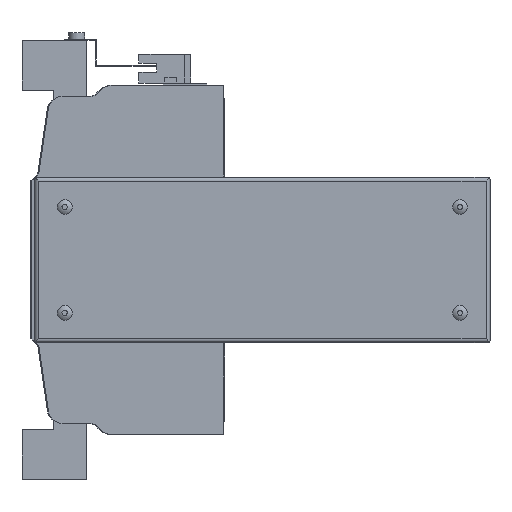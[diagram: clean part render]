
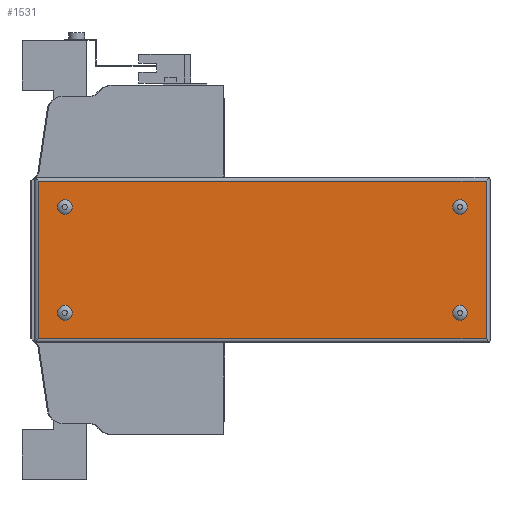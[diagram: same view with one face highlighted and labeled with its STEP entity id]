
A CAD part, left-side view. The second image highlights one B-rep face of the part: STEP entity #1531.
In plain terms, the highlighted planar face has unit normal (-1, 0, 0).
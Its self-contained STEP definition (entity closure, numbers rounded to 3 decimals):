
#1531 = ADVANCED_FACE( '', ( #3212, #3213, #3214, #3215, #3216 ), #3217, .F. );
#3212 = FACE_BOUND( '', #5039, .T. );
#3213 = FACE_BOUND( '', #5040, .T. );
#3214 = FACE_BOUND( '', #5041, .T. );
#3215 = FACE_BOUND( '', #5042, .T. );
#3216 = FACE_OUTER_BOUND( '', #5043, .T. );
#3217 = PLANE( '', #5044 );
#5039 = EDGE_LOOP( '', ( #9171 ) );
#5040 = EDGE_LOOP( '', ( #9172 ) );
#5041 = EDGE_LOOP( '', ( #9173 ) );
#5042 = EDGE_LOOP( '', ( #9174 ) );
#5043 = EDGE_LOOP( '', ( #9175, #9176, #9177, #9178 ) );
#5044 = AXIS2_PLACEMENT_3D( '', #9179, #9180, #9181 );
#9171 = ORIENTED_EDGE( '', *, *, #11360, .F. );
#9172 = ORIENTED_EDGE( '', *, *, #11473, .F. );
#9173 = ORIENTED_EDGE( '', *, *, #12154, .F. );
#9174 = ORIENTED_EDGE( '', *, *, #12071, .F. );
#9175 = ORIENTED_EDGE( '', *, *, #12155, .F. );
#9176 = ORIENTED_EDGE( '', *, *, #12077, .F. );
#9177 = ORIENTED_EDGE( '', *, *, #12057, .T. );
#9178 = ORIENTED_EDGE( '', *, *, #11776, .T. );
#9179 = CARTESIAN_POINT( '', ( -66., -131.95, 40.5 ) );
#9180 = DIRECTION( '', ( 1., 0., 0. ) );
#9181 = DIRECTION( '', ( 0., 0., -1. ) );
#11360 = EDGE_CURVE( '', #13898, #13898, #13899, .F. );
#11473 = EDGE_CURVE( '', #14068, #14068, #14069, .F. );
#11776 = EDGE_CURVE( '', #14511, #14508, #14512, .T. );
#12057 = EDGE_CURVE( '', #14880, #14511, #14881, .T. );
#12071 = EDGE_CURVE( '', #14898, #14898, #14899, .F. );
#12077 = EDGE_CURVE( '', #14880, #14906, #14907, .T. );
#12154 = EDGE_CURVE( '', #14996, #14996, #14997, .F. );
#12155 = EDGE_CURVE( '', #14906, #14508, #14998, .T. );
#13898 = VERTEX_POINT( '', #17339 );
#13899 = CIRCLE( '', #17340, 3.7 );
#14068 = VERTEX_POINT( '', #17579 );
#14069 = CIRCLE( '', #17580, 3.7 );
#14508 = VERTEX_POINT( '', #18194 );
#14511 = VERTEX_POINT( '', #18197 );
#14512 = LINE( '', #18198, #18199 );
#14880 = VERTEX_POINT( '', #18748 );
#14881 = LINE( '', #18749, #18750 );
#14898 = VERTEX_POINT( '', #18772 );
#14899 = CIRCLE( '', #18773, 3.7 );
#14906 = VERTEX_POINT( '', #18783 );
#14907 = LINE( '', #18784, #18785 );
#14996 = VERTEX_POINT( '', #18908 );
#14997 = CIRCLE( '', #18909, 3.7 );
#14998 = LINE( '', #18910, #18911 );
#17339 = CARTESIAN_POINT( '', ( -66., -117.95, 22.8 ) );
#17340 = AXIS2_PLACEMENT_3D( '', #20261, #20262, #20263 );
#17579 = CARTESIAN_POINT( '', ( -66., -117.95, -30.2 ) );
#17580 = AXIS2_PLACEMENT_3D( '', #20375, #20376, #20377 );
#18194 = CARTESIAN_POINT( '', ( -66., -130.95, 39.5 ) );
#18197 = CARTESIAN_POINT( '', ( -66., -130.95, -39.5 ) );
#18198 = CARTESIAN_POINT( '', ( -66., -130.95, -83. ) );
#18199 = VECTOR( '', #20688, 1000. );
#18748 = CARTESIAN_POINT( '', ( -66., 93.05, -39.5 ) );
#18749 = CARTESIAN_POINT( '', ( -66., 228., -39.5 ) );
#18750 = VECTOR( '', #20953, 1000. );
#18772 = CARTESIAN_POINT( '', ( -66., 80.05, -30.2 ) );
#18773 = AXIS2_PLACEMENT_3D( '', #20965, #20966, #20967 );
#18783 = CARTESIAN_POINT( '', ( -66., 93.05, 39.5 ) );
#18784 = CARTESIAN_POINT( '', ( -66., 93.05, -83. ) );
#18785 = VECTOR( '', #20971, 1000. );
#18908 = CARTESIAN_POINT( '', ( -66., 80.05, 22.8 ) );
#18909 = AXIS2_PLACEMENT_3D( '', #21033, #21034, #21035 );
#18910 = CARTESIAN_POINT( '', ( -66., 228., 39.5 ) );
#18911 = VECTOR( '', #21036, 1000. );
#20261 = CARTESIAN_POINT( '', ( -66., -117.95, 26.5 ) );
#20262 = DIRECTION( '', ( 1., 0., 0. ) );
#20263 = DIRECTION( '', ( 0., 0., -1. ) );
#20375 = CARTESIAN_POINT( '', ( -66., -117.95, -26.5 ) );
#20376 = DIRECTION( '', ( 1., 0., 0. ) );
#20377 = DIRECTION( '', ( 0., 0., -1. ) );
#20688 = DIRECTION( '', ( 0., 0., 1. ) );
#20953 = DIRECTION( '', ( 0., -1., 0. ) );
#20965 = CARTESIAN_POINT( '', ( -66., 80.05, -26.5 ) );
#20966 = DIRECTION( '', ( 1., 0., 0. ) );
#20967 = DIRECTION( '', ( 0., 0., -1. ) );
#20971 = DIRECTION( '', ( 0., 0., 1. ) );
#21033 = CARTESIAN_POINT( '', ( -66., 80.05, 26.5 ) );
#21034 = DIRECTION( '', ( 1., 0., 0. ) );
#21035 = DIRECTION( '', ( 0., 0., -1. ) );
#21036 = DIRECTION( '', ( 0., -1., 0. ) );
